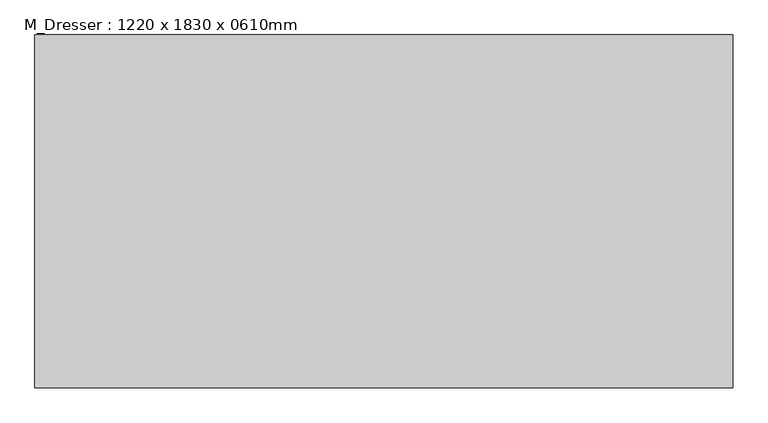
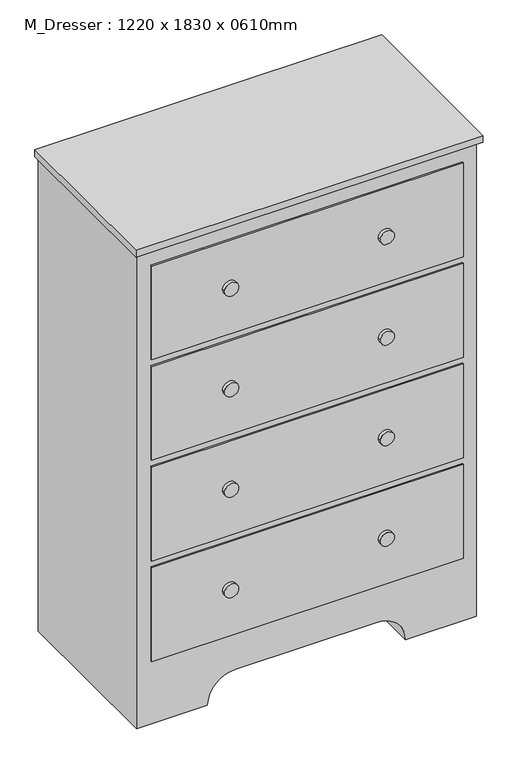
"""IFC4 building model written with IfcOpenShell, lengths in millimetres: furniture geometry, M_Dresser : 1220 x 1830 x 0610mm."""

from ifc_helpers import new_model, si_unit, point, frame, frame_2d, origin, place, context, project, spatial, polyline, circle_curve, trimmed, segment, composite_curve, outline, extrude, source, transform, mapped, element, save


def m_dresser_1220_x_1830_x_0610mm_1d5bd6a9(model_context):
    return source(origin(), model_context, "Body", "SweptSolid", [
        extrude(outline(polyline([(658.5067402, -134.6629541), (658.5067402, -763.7129541), (-586.8932598, -763.7129541), (-586.8932598, -134.6629541), (658.5067402, -134.6629541)])), frame((0.0, 0.0, 1804.6), z_axis=(0.0, 0.0, 1.0), x_axis=(1.0, 0.0, 0.0)), (0.0, 0.0, 1.0), 25.4),
        extrude(outline(composite_curve([segment(polyline([(0.0, 645.8067402), (1804.6, 645.8067402), (1804.6, -574.1932598), (0.0, -574.1932598), (0.0, -320.1932598)]), True, "CONTINUOUS"), segment(trimmed(circle_curve(frame_2d((0.0, -218.5932598)), 101.6), [point((0.0, -320.1932598))], [point((101.6, -218.5932598))], True, "CARTESIAN"), True, "CONTINUOUS"), segment(polyline([(101.6, -218.5932598), (101.6, 290.2067402)]), True, "CONTINUOUS"), segment(trimmed(circle_curve(frame_2d((0.0, 290.2067402)), 101.6), [point((101.6, 290.2067402))], [point((0.0, 391.8067402))], True, "CARTESIAN"), True, "CONTINUOUS"), segment(polyline([(0.0, 391.8067402), (0.0, 645.8067402)]), True, "CONTINUOUS")], self_intersect=False)), frame((0.0, -744.6629541, 0.0), z_axis=(0.0, 1.0, 0.0), x_axis=(0.0, 0.0, 1.0)), (0.0, 0.0, 1.0), 610.0),
        extrude(outline(composite_curve([segment(trimmed(circle_curve(frame_2d((1563.15, 315.4067402)), 25.4), [point((1563.15, 290.0067402))], [point((1563.15, 340.8067402))], False, "CARTESIAN"), True, "CONTINUOUS"), segment(trimmed(circle_curve(frame_2d((1563.15, 315.4067402)), 25.4), [point((1563.15, 340.8067402))], [point((1563.15, 290.0067402))], False, "CARTESIAN"), True, "CONTINUOUS")], self_intersect=False)), frame((0.0, -763.7129541, 0.0), z_axis=(0.0, 1.0, 0.0), x_axis=(0.0, 0.0, 1.0)), (0.0, 0.0, 1.0), 12.7),
        extrude(outline(composite_curve([segment(trimmed(circle_curve(frame_2d((1181.85, 315.4067402)), 25.4), [point((1181.85, 290.0067402))], [point((1181.85, 340.8067402))], False, "CARTESIAN"), True, "CONTINUOUS"), segment(trimmed(circle_curve(frame_2d((1181.85, 315.4067402)), 25.4), [point((1181.85, 340.8067402))], [point((1181.85, 290.0067402))], False, "CARTESIAN"), True, "CONTINUOUS")], self_intersect=False)), frame((0.0, -763.7129541, 0.0), z_axis=(0.0, 1.0, 0.0), x_axis=(0.0, 0.0, 1.0)), (0.0, 0.0, 1.0), 12.7),
        extrude(outline(composite_curve([segment(trimmed(circle_curve(frame_2d((800.55, 315.4067402)), 25.4), [point((800.55, 290.0067402))], [point((800.55, 340.8067402))], False, "CARTESIAN"), True, "CONTINUOUS"), segment(trimmed(circle_curve(frame_2d((800.55, 315.4067402)), 25.4), [point((800.55, 340.8067402))], [point((800.55, 290.0067402))], False, "CARTESIAN"), True, "CONTINUOUS")], self_intersect=False)), frame((0.0, -763.7129541, 0.0), z_axis=(0.0, 1.0, 0.0), x_axis=(0.0, 0.0, 1.0)), (0.0, 0.0, 1.0), 12.7),
        extrude(outline(composite_curve([segment(trimmed(circle_curve(frame_2d((419.25, 315.4067402)), 25.4), [point((419.25, 290.0067402))], [point((419.25, 340.8067402))], False, "CARTESIAN"), True, "CONTINUOUS"), segment(trimmed(circle_curve(frame_2d((419.25, 315.4067402)), 25.4), [point((419.25, 340.8067402))], [point((419.25, 290.0067402))], False, "CARTESIAN"), True, "CONTINUOUS")], self_intersect=False)), frame((0.0, -763.7129541, 0.0), z_axis=(0.0, 1.0, 0.0), x_axis=(0.0, 0.0, 1.0)), (0.0, 0.0, 1.0), 12.7),
        extrude(outline(composite_curve([segment(trimmed(circle_curve(frame_2d((419.25, -243.7932598)), 25.4), [point((419.25, -269.1932598))], [point((419.25, -218.3932598))], False, "CARTESIAN"), True, "CONTINUOUS"), segment(trimmed(circle_curve(frame_2d((419.25, -243.7932598)), 25.4), [point((419.25, -218.3932598))], [point((419.25, -269.1932598))], False, "CARTESIAN"), True, "CONTINUOUS")], self_intersect=False)), frame((0.0, -763.7129541, 0.0), z_axis=(0.0, 1.0, 0.0), x_axis=(0.0, 0.0, 1.0)), (0.0, 0.0, 1.0), 12.7),
        extrude(outline(composite_curve([segment(trimmed(circle_curve(frame_2d((800.55, -243.7932598)), 25.4), [point((800.55, -269.1932598))], [point((800.55, -218.3932598))], False, "CARTESIAN"), True, "CONTINUOUS"), segment(trimmed(circle_curve(frame_2d((800.55, -243.7932598)), 25.4), [point((800.55, -218.3932598))], [point((800.55, -269.1932598))], False, "CARTESIAN"), True, "CONTINUOUS")], self_intersect=False)), frame((0.0, -763.7129541, 0.0), z_axis=(0.0, 1.0, 0.0), x_axis=(0.0, 0.0, 1.0)), (0.0, 0.0, 1.0), 12.7),
        extrude(outline(composite_curve([segment(trimmed(circle_curve(frame_2d((1181.85, -243.7932598)), 25.4), [point((1181.85, -269.1932598))], [point((1181.85, -218.3932598))], False, "CARTESIAN"), True, "CONTINUOUS"), segment(trimmed(circle_curve(frame_2d((1181.85, -243.7932598)), 25.4), [point((1181.85, -218.3932598))], [point((1181.85, -269.1932598))], False, "CARTESIAN"), True, "CONTINUOUS")], self_intersect=False)), frame((0.0, -763.7129541, 0.0), z_axis=(0.0, 1.0, 0.0), x_axis=(0.0, 0.0, 1.0)), (0.0, 0.0, 1.0), 12.7),
        extrude(outline(composite_curve([segment(trimmed(circle_curve(frame_2d((1563.15, -243.7932598)), 25.4), [point((1563.15, -269.1932598))], [point((1563.15, -218.3932598))], False, "CARTESIAN"), True, "CONTINUOUS"), segment(trimmed(circle_curve(frame_2d((1563.15, -243.7932598)), 25.4), [point((1563.15, -218.3932598))], [point((1563.15, -269.1932598))], False, "CARTESIAN"), True, "CONTINUOUS")], self_intersect=False)), frame((0.0, -763.7129541, 0.0), z_axis=(0.0, 1.0, 0.0), x_axis=(0.0, 0.0, 1.0)), (0.0, 0.0, 1.0), 12.7),
        extrude(outline(polyline([(595.0067402, -751.0129541), (-523.3932598, -751.0129541), (-523.3932598, -744.6629541), (595.0067402, -744.6629541), (595.0067402, -751.0129541)])), frame((0.0, 0.0, 1385.2), z_axis=(0.0, 0.0, 1.0), x_axis=(1.0, 0.0, 0.0)), (0.0, 0.0, 1.0), 355.9),
        extrude(outline(polyline([(595.0067402, -751.0129541), (-523.3932598, -751.0129541), (-523.3932598, -744.6629541), (595.0067402, -744.6629541), (595.0067402, -751.0129541)])), frame((0.0, 0.0, 1003.9), z_axis=(0.0, 0.0, 1.0), x_axis=(1.0, 0.0, 0.0)), (0.0, 0.0, 1.0), 355.9),
        extrude(outline(polyline([(595.0067402, -751.0129541), (-523.3932598, -751.0129541), (-523.3932598, -744.6629541), (595.0067402, -744.6629541), (595.0067402, -751.0129541)])), frame((0.0, 0.0, 622.6), z_axis=(0.0, 0.0, 1.0), x_axis=(1.0, 0.0, 0.0)), (0.0, 0.0, 1.0), 355.9),
        extrude(outline(polyline([(595.0067402, -751.0129541), (-523.3932598, -751.0129541), (-523.3932598, -744.6629541), (595.0067402, -744.6629541), (595.0067402, -751.0129541)])), frame((0.0, 0.0, 241.3), z_axis=(0.0, 0.0, 1.0), x_axis=(1.0, 0.0, 0.0)), (0.0, 0.0, 1.0), 355.9),
    ])


if __name__ == "__main__":
    model = new_model("IFC4")
    model_context = context("Model", 3, world=origin())
    ifc_project = project(units=[si_unit("LENGTHUNIT", "METRE", prefix="MILLI")], contexts=[model_context])
    site = spatial("IfcSite", under=ifc_project)
    building = spatial("IfcBuilding", under=site)
    placement = place(None, origin())
    m_dresser_1220_x_1830_x_0610mm_shape = m_dresser_1220_x_1830_x_0610mm_1d5bd6a9(model_context)
    element("IfcFurniture", 1, ObjectType="M_Dresser : 1220 x 1830 x 0610mm", at=placement, inside=building, context=model_context, shape_type="MappedRepresentation", body=[
        mapped(m_dresser_1220_x_1830_x_0610mm_shape, transform((0.0, 0.0, 0.0), x_axis=(1.0, 0.0, 0.0), y_axis=(0.0, 1.0, 0.0), z_axis=(0.0, 0.0, 1.0))),
    ])
    save(model, "model.ifc")
